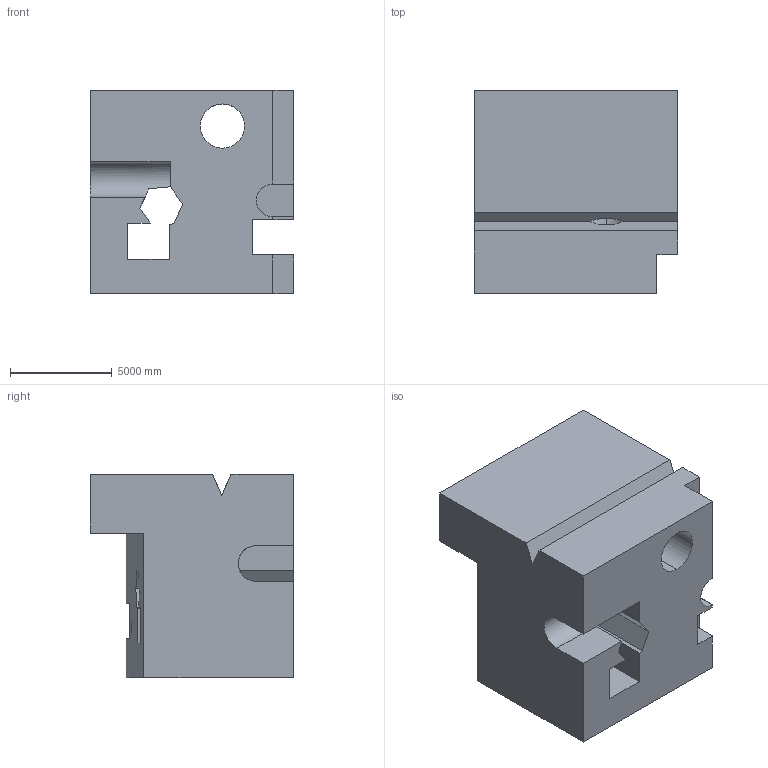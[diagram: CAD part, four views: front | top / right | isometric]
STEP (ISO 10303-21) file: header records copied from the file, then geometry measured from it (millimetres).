
FILE_DESCRIPTION (( 'STEP AP203' ), '1' );
FILE_NAME ('1956.STEP', '2022-08-23T09:56:40', ( 'user' ), ( '' ), 'SwSTEP 2.0', 'SolidWorks 2021', '' );
FILE_SCHEMA (( 'CONFIG_CONTROL_DESIGN' ));
Length unit declared in the file: centimetre
Products named in the file (1): 1956
Bounding box: 10000 x 10000 x 10000 mm (x, y, z)
Volume: 669286475127.7 mm3; surface area: 774174695.4 mm2
Topology: 1 solids, 1 shells, 45 faces, 141 edges, 94 vertices
Faces by surface type: plane 39, cylinder 6
Entity records: 1643 total; most frequent: CARTESIAN_POINT 302, ORIENTED_EDGE 282, DIRECTION 241, EDGE_CURVE 141, LINE 119, VECTOR 119, VERTEX_POINT 94, AXIS2_PLACEMENT_3D 61
